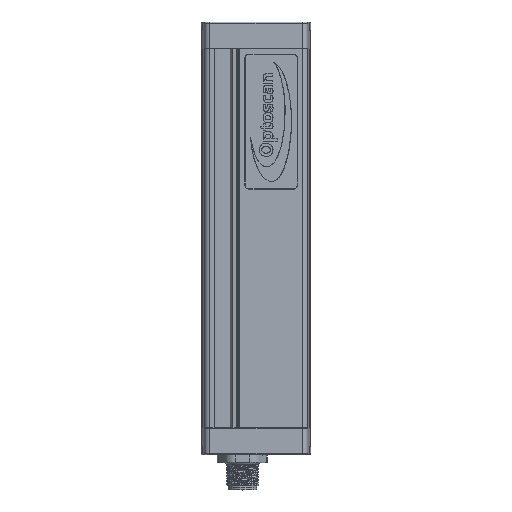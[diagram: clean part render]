
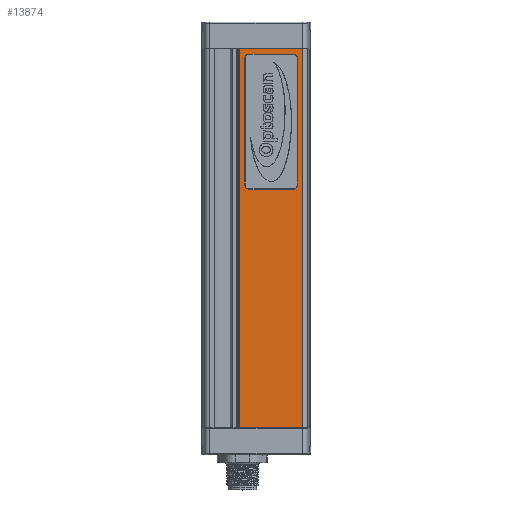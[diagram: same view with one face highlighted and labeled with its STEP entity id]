
A CAD part, top view. The second image highlights one B-rep face of the part: STEP entity #13874.
In plain terms, the highlighted planar face has unit normal (0, 0, 1).
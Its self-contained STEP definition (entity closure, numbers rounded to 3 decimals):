
#178=FACE_BOUND('',#2285,.T.);
#461=CIRCLE('',#14585,1.45);
#467=CIRCLE('',#14593,1.45);
#471=CIRCLE('',#14599,1.45);
#475=CIRCLE('',#14605,1.45);
#1052=PLANE('',#14718);
#1510=FACE_OUTER_BOUND('',#2284,.T.);
#2284=EDGE_LOOP('',(#9922,#9923,#9924,#9925));
#2285=EDGE_LOOP('',(#9926,#9927,#9928,#9929,#9930,#9931,#9932,#9933));
#3345=LINE('',#20295,#4416);
#3347=LINE('',#20307,#4418);
#3349=LINE('',#20319,#4420);
#3351=LINE('',#20328,#4422);
#3562=LINE('',#22495,#4633);
#3563=LINE('',#22497,#4634);
#3564=LINE('',#22499,#4635);
#3565=LINE('',#22500,#4636);
#4416=VECTOR('',#16169,10.);
#4418=VECTOR('',#16183,10.);
#4420=VECTOR('',#16197,10.);
#4422=VECTOR('',#16209,10.);
#4633=VECTOR('',#16644,10.);
#4634=VECTOR('',#16645,10.);
#4635=VECTOR('',#16646,10.);
#4636=VECTOR('',#16647,10.);
#5576=VERTEX_POINT('',#20283);
#5577=VERTEX_POINT('',#20285);
#5579=VERTEX_POINT('',#20291);
#5581=VERTEX_POINT('',#20297);
#5583=VERTEX_POINT('',#20303);
#5585=VERTEX_POINT('',#20309);
#5587=VERTEX_POINT('',#20315);
#5589=VERTEX_POINT('',#20321);
#5831=VERTEX_POINT('',#22493);
#5832=VERTEX_POINT('',#22494);
#5833=VERTEX_POINT('',#22496);
#5834=VERTEX_POINT('',#22498);
#6939=EDGE_CURVE('',#5576,#5577,#461,.T.);
#6944=EDGE_CURVE('',#5577,#5579,#3345,.T.);
#6947=EDGE_CURVE('',#5579,#5581,#467,.T.);
#6950=EDGE_CURVE('',#5581,#5583,#3347,.T.);
#6953=EDGE_CURVE('',#5583,#5585,#471,.T.);
#6956=EDGE_CURVE('',#5585,#5587,#3349,.T.);
#6959=EDGE_CURVE('',#5587,#5589,#475,.T.);
#6961=EDGE_CURVE('',#5589,#5576,#3351,.T.);
#7330=EDGE_CURVE('',#5831,#5832,#3562,.T.);
#7331=EDGE_CURVE('',#5832,#5833,#3563,.T.);
#7332=EDGE_CURVE('',#5834,#5833,#3564,.T.);
#7333=EDGE_CURVE('',#5831,#5834,#3565,.T.);
#9922=ORIENTED_EDGE('',*,*,#7330,.T.);
#9923=ORIENTED_EDGE('',*,*,#7331,.T.);
#9924=ORIENTED_EDGE('',*,*,#7332,.F.);
#9925=ORIENTED_EDGE('',*,*,#7333,.F.);
#9926=ORIENTED_EDGE('',*,*,#6939,.F.);
#9927=ORIENTED_EDGE('',*,*,#6961,.F.);
#9928=ORIENTED_EDGE('',*,*,#6959,.F.);
#9929=ORIENTED_EDGE('',*,*,#6956,.F.);
#9930=ORIENTED_EDGE('',*,*,#6953,.F.);
#9931=ORIENTED_EDGE('',*,*,#6950,.F.);
#9932=ORIENTED_EDGE('',*,*,#6947,.F.);
#9933=ORIENTED_EDGE('',*,*,#6944,.F.);
#13874=ADVANCED_FACE('',(#1510,#178),#1052,.T.);
#14585=AXIS2_PLACEMENT_3D('',#20286,#16158,#16159);
#14593=AXIS2_PLACEMENT_3D('',#20301,#16176,#16177);
#14599=AXIS2_PLACEMENT_3D('',#20313,#16190,#16191);
#14605=AXIS2_PLACEMENT_3D('',#20325,#16204,#16205);
#14718=AXIS2_PLACEMENT_3D('',#22492,#16642,#16643);
#16158=DIRECTION('center_axis',(0.,0.,
1.));
#16159=DIRECTION('ref_axis',(1.,0.,0.));
#16169=DIRECTION('',(1.,0.,0.));
#16176=DIRECTION('center_axis',(0.,0.,
1.));
#16177=DIRECTION('ref_axis',(1.,0.,0.));
#16183=DIRECTION('',(0.,1.,0.));
#16190=DIRECTION('center_axis',(0.,0.,
1.));
#16191=DIRECTION('ref_axis',(1.,0.,0.));
#16197=DIRECTION('',(-1.,0.,0.));
#16204=DIRECTION('center_axis',(0.,0.,
1.));
#16205=DIRECTION('ref_axis',(1.,0.,0.));
#16209=DIRECTION('',(0.,-1.,0.));
#16642=DIRECTION('center_axis',(0.,0.,
1.));
#16643=DIRECTION('ref_axis',(1.,0.,0.));
#16644=DIRECTION('',(1.,0.,0.));
#16645=DIRECTION('',(0.,1.,0.));
#16646=DIRECTION('',(1.,0.,0.));
#16647=DIRECTION('',(0.,1.,0.));
#20283=CARTESIAN_POINT('',(-42.765,89.7,28.879));
#20285=CARTESIAN_POINT('',(-41.315,88.25,28.879));
#20286=CARTESIAN_POINT('Origin',(-41.315,89.7,28.879));
#20291=CARTESIAN_POINT('',(-24.915,88.25,28.879));
#20295=CARTESIAN_POINT('',(-37.215,88.25,28.879));
#20297=CARTESIAN_POINT('',(-23.465,89.7,28.879));
#20301=CARTESIAN_POINT('Origin',(-24.915,89.7,28.879));
#20303=CARTESIAN_POINT('',(-23.465,136.5,28.879));
#20307=CARTESIAN_POINT('',(-23.465,101.4,28.879));
#20309=CARTESIAN_POINT('',(-24.915,137.95,28.879));
#20313=CARTESIAN_POINT('Origin',(-24.915,136.5,28.879));
#20315=CARTESIAN_POINT('',(-41.315,137.95,28.879));
#20319=CARTESIAN_POINT('',(-29.015,137.95,28.879));
#20321=CARTESIAN_POINT('',(-42.765,136.5,28.879));
#20325=CARTESIAN_POINT('Origin',(-41.315,136.5,28.879));
#20328=CARTESIAN_POINT('',(-42.765,124.8,28.879));
#22492=CARTESIAN_POINT('Origin',(-44.965,0.,
28.879));
#22493=CARTESIAN_POINT('',(-44.965,0.,28.879));
#22494=CARTESIAN_POINT('',(-21.664,0.,28.879));
#22495=CARTESIAN_POINT('',(-44.965,0.,28.879));
#22496=CARTESIAN_POINT('',(-21.664,140.,28.879));
#22497=CARTESIAN_POINT('',(-21.664,0.,28.879));
#22498=CARTESIAN_POINT('',(-44.965,140.,28.879));
#22499=CARTESIAN_POINT('',(-44.965,140.,28.879));
#22500=CARTESIAN_POINT('',(-44.965,0.,28.879));
